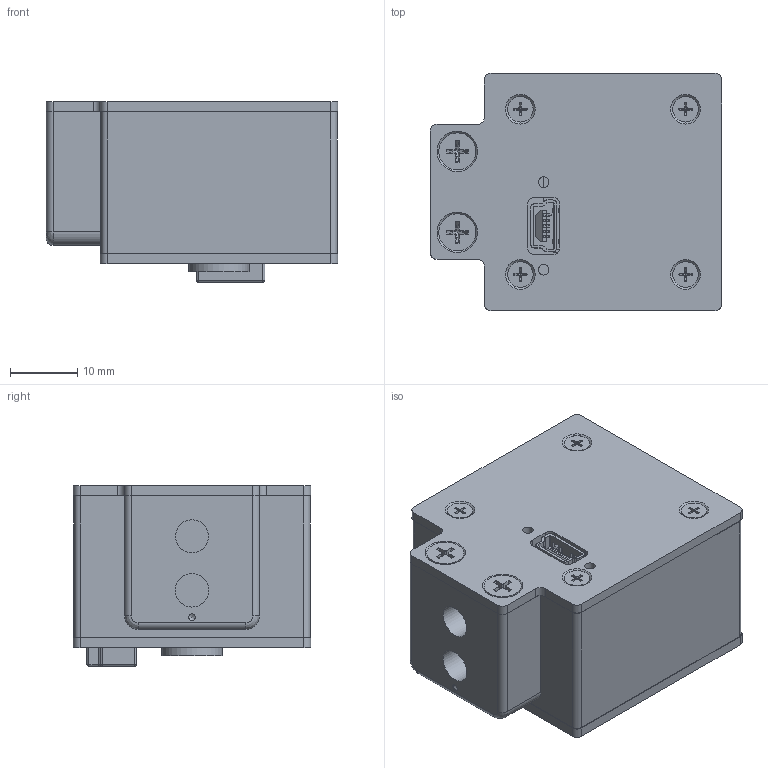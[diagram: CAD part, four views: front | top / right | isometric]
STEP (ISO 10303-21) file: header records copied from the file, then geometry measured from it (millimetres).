
FILE_DESCRIPTION(/* description */ ('XXXXplatte'),/* implementation_level */ '2;1');
FILE_NAME(/* name */ 'D:\1_Konstruktion\1_KUNDEN\TIS\115-11_ZB AF-Kamera 35x35\Dumme-Modelle (Step)\B3A1-0156(AF-Kamera_USB-ob_TripAdap_0°)2.stp',/* time_stamp */ '2015-06-15T22:14:17+02:00',/* author */ ('khw'),/* organization */ (''),/* preprocessor_version */ 'ST-DEVELOPER v15.2',/* originating_system */ 'Autodesk Inventor 2014',/* authorisation */ '6767,5 mm^3');
FILE_SCHEMA (('AUTOMOTIVE_DESIGN { 1 0 10303 214 3 1 1 }'));
Length unit declared in the file: millimetre
Products named in the file (1): B3A1-0156(AF-Kamera_USB-ob_TripAdap_0°)2
Bounding box: 43.2 x 35.2 x 26.76 mm (x, y, z)
Volume: 14044.4 mm3; surface area: 16671.2 mm2
Topology: 17 solids, 17 shells, 726 faces, 1908 edges, 1233 vertices
Faces by surface type: plane 346, cylinder 173, cone 141, torus 53, sphere 11, bspline 2
Full cylindrical faces by diameter (mm): 0.929 x2, 1 x3, 1.2 x1, 1.567 x2, 1.755 x8, 1.8 x1, 2 x8, 2.2 x8, 2.459 x2, 2.693 x2, 2.8 x1, 3 x3, 3.2 x4, 3.8 x8, 4.917 x1, 4.978 x1, 5.5 x2, 6.5 x1, 9 x1, 11.459 x1, 12 x1, 13.5 x1, 14 x1
Entity records: 22879 total; most frequent: CARTESIAN_POINT 4917, DIRECTION 3527, ORIENTED_EDGE 3438, EDGE_CURVE 1719, AXIS2_PLACEMENT_3D 1286, VERTEX_POINT 1189, LINE 955, VECTOR 955
